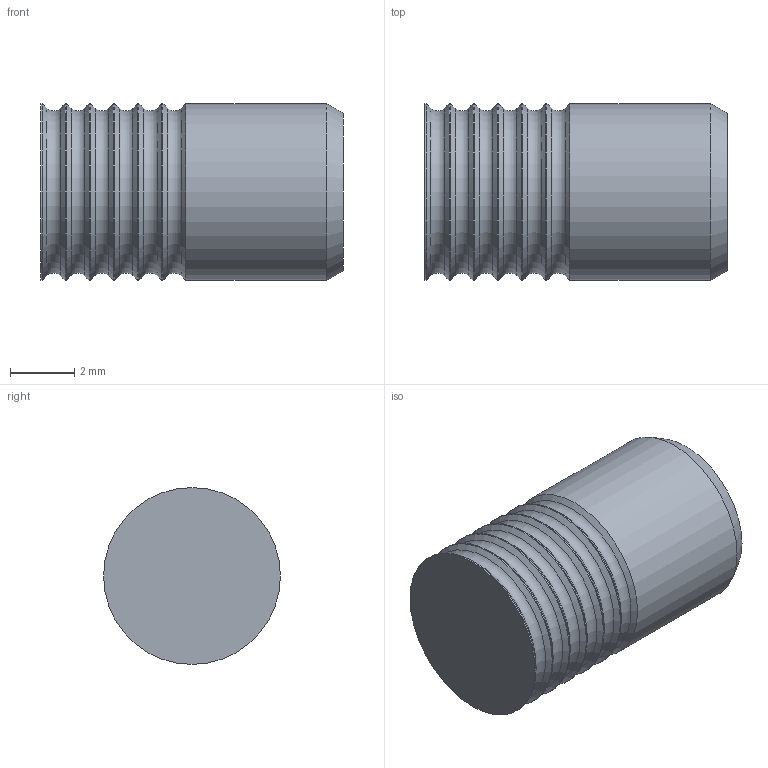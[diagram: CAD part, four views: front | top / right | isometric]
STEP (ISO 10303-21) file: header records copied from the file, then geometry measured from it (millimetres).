
FILE_DESCRIPTION(/* description */ ('LEE RESTRICTOR CHEK, 558 SERIES, REVERSE, SCREENED'),/* implementation_level */ '2;1');
FILE_NAME(/* name */ '\\ABSOLUTE\SmWork\Vernon\CORM55210XXS.stp',/* time_stamp */ '2021-03-23T14:59:18-04:00',/* author */ ('VernonJ'),/* organization */ (''),/* preprocessor_version */ 'ST-DEVELOPER v18',/* originating_system */ 'Autodesk Inventor 2020',/* authorisation */ '');
FILE_SCHEMA (('AUTOMOTIVE_DESIGN { 1 0 10303 214 3 1 1 }'));
Length unit declared in the file: millimetre
Products named in the file (1): CORM55210XXS
Bounding box: 9.4 x 5.5 x 5.5 mm (x, y, z)
Volume: 211.3 mm3; surface area: 218.4 mm2
Topology: 1 solids, 1 shells, 28 faces, 92 edges, 66 vertices
Faces by surface type: cone 13, cylinder 7, torus 6, plane 2
Full cylindrical faces by diameter (mm): 5.5 x7
Entity records: 1121 total; most frequent: DIRECTION 222, CARTESIAN_POINT 187, ORIENTED_EDGE 184, AXIS2_PLACEMENT_3D 101, EDGE_CURVE 92, CIRCLE 72, VERTEX_POINT 66, FACE_OUTER_BOUND 28
